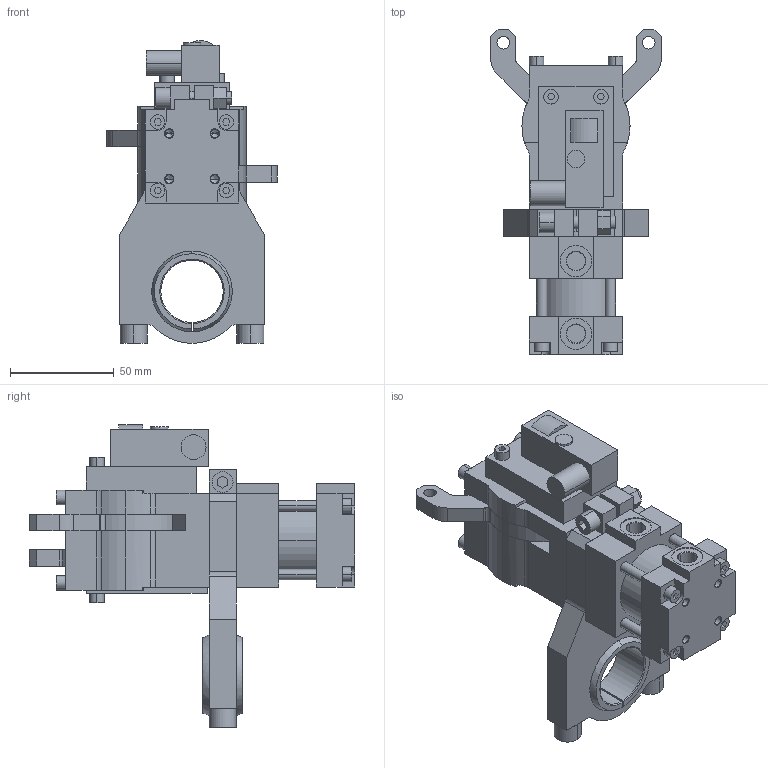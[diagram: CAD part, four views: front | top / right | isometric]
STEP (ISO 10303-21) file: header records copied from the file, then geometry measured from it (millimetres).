
FILE_DESCRIPTION (( 'STEP AP214' ), '1' );
FILE_NAME ('b32_bxsx_pla___x_b30.STEP', '2018-05-08T12:54:10', ( 'vepadmin' ), ( 'Hewlett-Packard Company' ), 'SwSTEP 2.0', 'SolidWorks 2018', '' );
FILE_SCHEMA (( 'AUTOMOTIVE_DESIGN' ));
Length unit declared in the file: millimetre
Products named in the file (9): calotta_sferica_30_b32; gruppo_cilindro_b32; riparo_micro_b32; blocchetto_p&f_90; scatola_micro_b32; attacco_snodo_b30_b32; leva_b32b; gruppo_montante_b32b; b32_bxsx_pla___x_b30
Assembly tree (9 placements, depth 2):
  b32_bxsx_pla___x_b30
    gruppo_montante_b32b
    leva_b32b  x2
    attacco_snodo_b30_b32
    scatola_micro_b32
    blocchetto_p&f_90
    riparo_micro_b32
    gruppo_cilindro_b32
    calotta_sferica_30_b32
Bounding box: 82 x 156.5 x 145.6 mm (x, y, z)
Volume: 363928.2 mm3; surface area: 99816.6 mm2
Topology: 9 solids, 9 shells, 512 faces, 1315 edges, 857 vertices
Faces by surface type: plane 319, cylinder 161, cone 28, sphere 4
Entity records: 14911 total; most frequent: DIRECTION 2537, CARTESIAN_POINT 2536, ORIENTED_EDGE 2436, EDGE_CURVE 1218, LINE 883, VECTOR 883, AXIS2_PLACEMENT_3D 827, VERTEX_POINT 798
